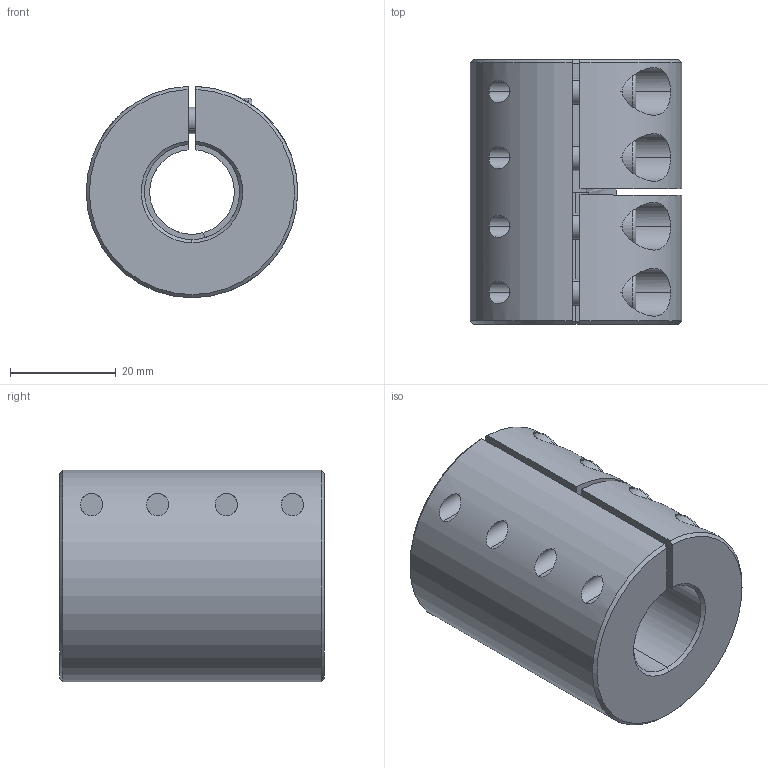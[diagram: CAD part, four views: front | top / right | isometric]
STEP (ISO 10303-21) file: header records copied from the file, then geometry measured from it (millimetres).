
FILE_DESCRIPTION (( 'STEP AP214' ), '1' );
FILE_NAME ('LL-B-D40L50-16-18½¨Ä£.STEP', '2022-07-22T00:26:12', ( '' ), ( '' ), 'SwSTEP 2.0', 'SolidWorks 2022', '' );
FILE_SCHEMA (( 'AUTOMOTIVE_DESIGN' ));
Length unit declared in the file: millimetre
Products named in the file (1): LL-B-D40L50-16-18膘耀
Bounding box: 40 x 50 x 39.99 mm (x, y, z)
Volume: 48558.3 mm3; surface area: 15362.4 mm2
Topology: 1 solids, 1 shells, 176 faces, 444 edges, 278 vertices
Faces by surface type: plane 84, cylinder 70, cone 14, torus 8
Entity records: 5801 total; most frequent: CARTESIAN_POINT 1475, DIRECTION 941, ORIENTED_EDGE 872, EDGE_CURVE 436, AXIS2_PLACEMENT_3D 368, VERTEX_POINT 278, EDGE_LOOP 208, VECTOR 205
